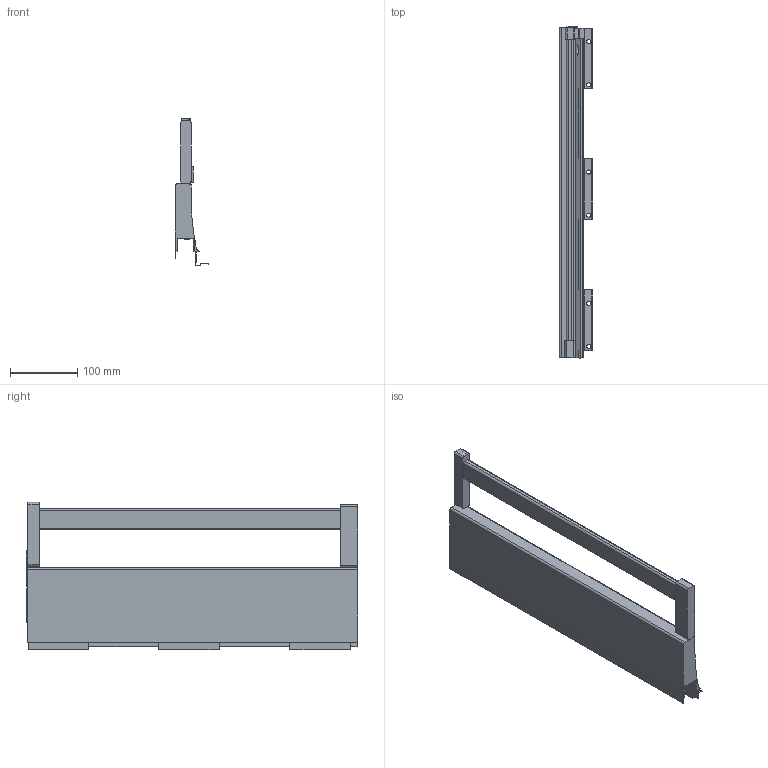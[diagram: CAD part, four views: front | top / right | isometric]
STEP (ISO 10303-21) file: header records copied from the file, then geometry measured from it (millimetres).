
FILE_DESCRIPTION (( 'STEP AP214' ), '1' );
FILE_NAME ('_XP Agantis Dekorseite H127 NL500 LI Rechteckreling.step', '2010-07-08T06:24:28', ( 'grass' ), ( '' ), 'SwSTEP 2.0', 'SolidWorks 2010', '' );
FILE_SCHEMA (( 'AUTOMOTIVE_DESIGN' ));
Length unit declared in the file: millimetre
Products named in the file (1): _XP Agantis Dekorseite H127 NL500 LI Rechteckreling
Bounding box: 50.01 x 492.45 x 219 mm (x, y, z)
Volume: 1264993.9 mm3; surface area: 246896.6 mm2
Topology: 2 solids, 2 shells, 183 faces, 522 edges, 342 vertices
Faces by surface type: plane 142, cylinder 41
Entity records: 6055 total; most frequent: CARTESIAN_POINT 1135, ORIENTED_EDGE 1044, DIRECTION 969, EDGE_CURVE 522, VECTOR 439, LINE 439, VERTEX_POINT 342, AXIS2_PLACEMENT_3D 265
